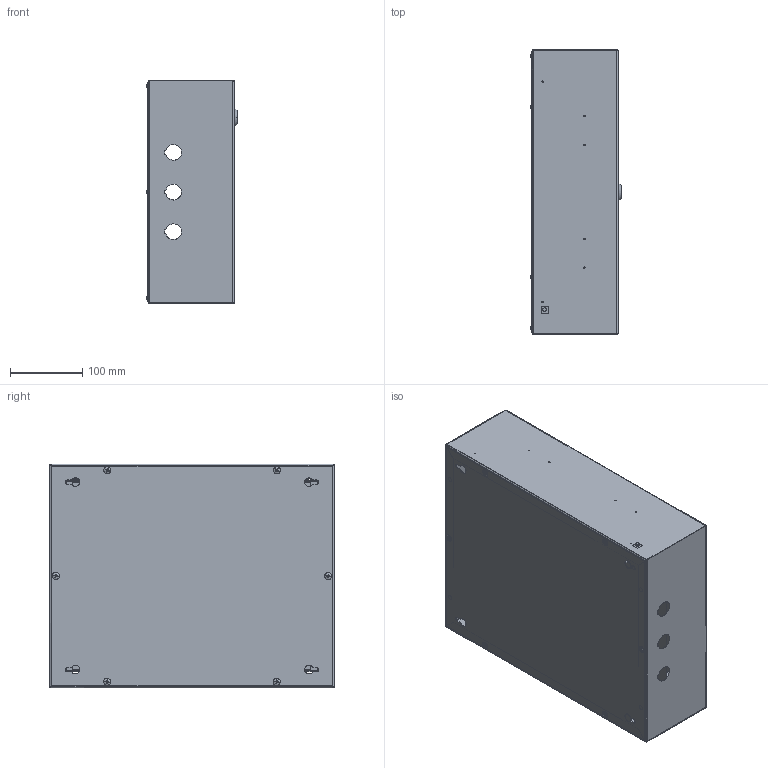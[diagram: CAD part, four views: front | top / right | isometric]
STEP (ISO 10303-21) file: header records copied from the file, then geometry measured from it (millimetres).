
FILE_DESCRIPTION (( 'STEP AP214' ), '1' );
FILE_NAME ('ÙÐí-24-395õ310õ120-IP31-ÓÕË3-ÊÝÀÇ.STEP', '2023-01-24T13:24:00', ( '' ), ( '' ), 'SwSTEP 2.0', 'SolidWorks 2018', '' );
FILE_SCHEMA (( 'AUTOMOTIVE_DESIGN' ));
Length unit declared in the file: millimetre
Products named in the file (1): ÙÐí-24-395õ310õ120-IP31-ÓÕË3-ÊÝÀÇ
Bounding box: 125.16 x 394.7 x 310.3 mm (x, y, z)
Surface area: 1014303.3 mm2 (no closed solid volume)
Topology: 0 solids, 22 shells, 233 faces, 999 edges, 745 vertices
Faces by surface type: plane 127, cylinder 77, bspline 15, sphere 12, cone 2
Entity records: 14305 total; most frequent: CARTESIAN_POINT 3617, DIRECTION 1692, ORIENTED_EDGE 1395, EDGE_CURVE 999, VERTEX_POINT 745, LINE 574, VECTOR 574, AXIS2_PLACEMENT_3D 559
